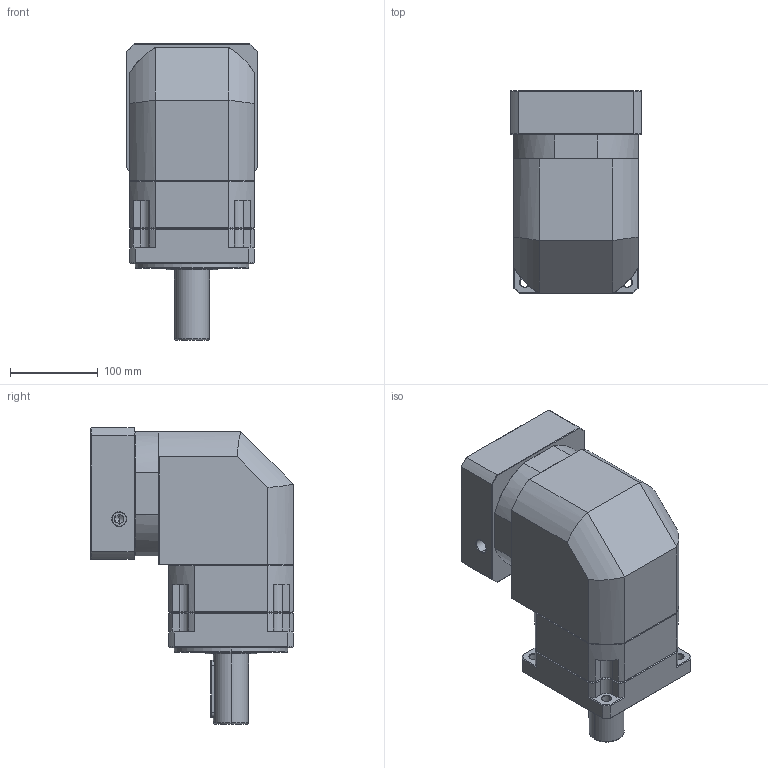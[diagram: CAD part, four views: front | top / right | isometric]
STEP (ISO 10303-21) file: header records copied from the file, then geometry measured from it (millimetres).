
FILE_DESCRIPTION (( 'STEP AP214' ), '1' );
FILE_NAME ('ZBR142A-D40-L1-P2-32-130-165-M10.step', '2023-09-02T07:11:13', ( '' ), ( '' ), 'SwSTEP 2.0', 'SolidWorks 2016', '' );
FILE_SCHEMA (( 'AUTOMOTIVE_DESIGN' ));
Length unit declared in the file: millimetre
Products named in the file (1): ZBR142A-D40-L1-P2-32-130-165-M10
Bounding box: 150 x 231 x 337.7 mm (x, y, z)
Volume: 5508754.7 mm3; surface area: 399954.5 mm2
Topology: 6 solids, 6 shells, 2312 faces, 6043 edges, 3838 vertices
Faces by surface type: plane 1120, cylinder 424, bspline 401, cone 332, torus 35
Entity records: 130212 total; most frequent: CARTESIAN_POINT 51409, ORIENTED_EDGE 12026, DIRECTION 9497, EDGE_CURVE 6013, LINE 3903, VECTOR 3903, VERTEX_POINT 3838, AXIS2_PLACEMENT_3D 2797
